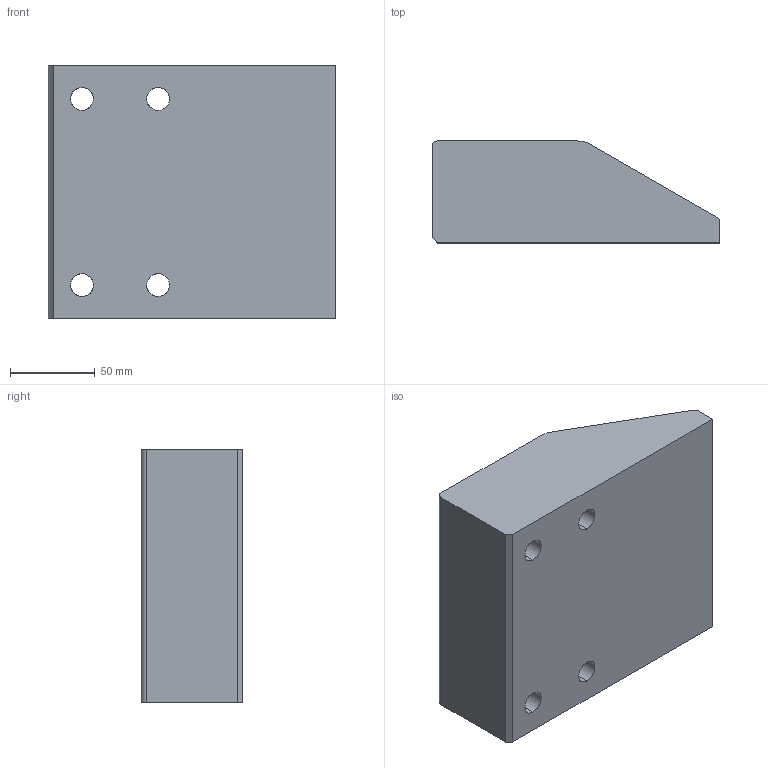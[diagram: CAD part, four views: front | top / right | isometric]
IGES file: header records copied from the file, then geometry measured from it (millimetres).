
Start section: START RECORD GO HERE.
Global section: file name: A935-15017060.igs; native system: DASSAULT SYSTEMES CATIA V5 R20 - www.3ds.com; preprocessor: CATIA Version 5 Release 20 ; author: Utente; organization: NB04-ASUS; date: 20200417.103928; units: millimetre
Bounding box: 170 x 60 x 150 mm (x, y, z)
Surface area: 92485.5 mm2 (no closed solid volume)
Topology: 0 solids, 0 shells, 39 faces, 182 edges, 182 vertices
Faces by surface type: revolution 27, extrusion 12
